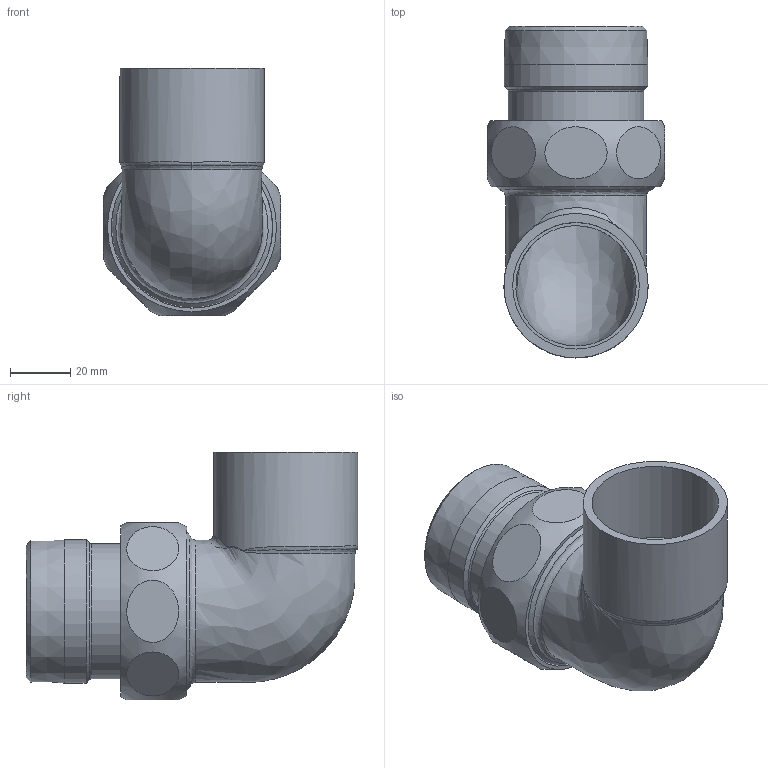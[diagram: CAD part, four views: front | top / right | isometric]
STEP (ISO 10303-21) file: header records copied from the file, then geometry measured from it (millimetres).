
FILE_DESCRIPTION(/* description */ (''),/* implementation_level */ '2;1');
FILE_NAME(/* name */ 'C:\Users\gomulka\Desktop\Technotrans_Angebot\14098g_42-112(1).stp',/* time_stamp */ '2017-10-20T08:19:52+02:00',/* author */ ('gomulka'),/* organization */ (''),/* preprocessor_version */ 'ST-DEVELOPER v15.6',/* originating_system */ 'Autodesk Inventor 2015',/* authorisation */ '');
FILE_SCHEMA (('AUTOMOTIVE_DESIGN { 1 0 10303 214 3 1 1 }'));
Length unit declared in the file: millimetre
Products named in the file (4): 1E4098g_42-134(0); 14382_112-134(2); 14374_134(2); 14098g_42-112(1)
Assembly tree (3 placements, depth 2):
  14098g_42-112(1)
    1E4098g_42-134(0)
    14382_112-134(2)
    14374_134(2)
Bounding box: 59 x 110.49 x 82.5 mm (x, y, z)
Volume: 87359.5 mm3; surface area: 49281 mm2
Topology: 3 solids, 3 shells, 57 faces, 125 edges, 81 vertices
Faces by surface type: cylinder 17, plane 17, cone 11, bspline 9, torus 3
Full cylindrical faces by diameter (mm): 42.15 x1, 45 x1, 47.803 x1, 48 x2, 50 x1, 50.5 x1, 50.788 x1, 53.746 x1
Entity records: 3793 total; most frequent: CARTESIAN_POINT 2619, DIRECTION 206, ORIENTED_EDGE 200, EDGE_CURVE 100, AXIS2_PLACEMENT_3D 99, EDGE_LOOP 92, VERTEX_POINT 78, FACE_OUTER_BOUND 57
